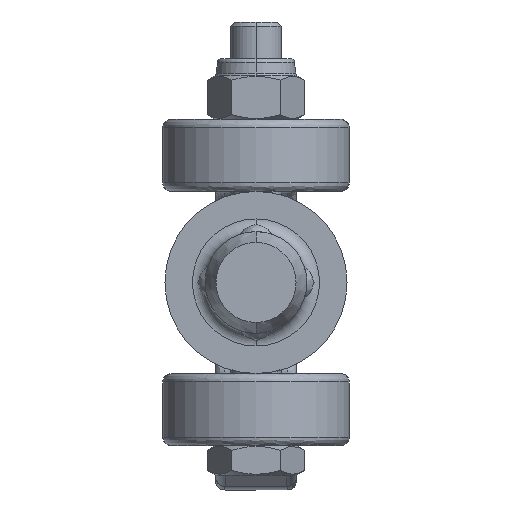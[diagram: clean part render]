
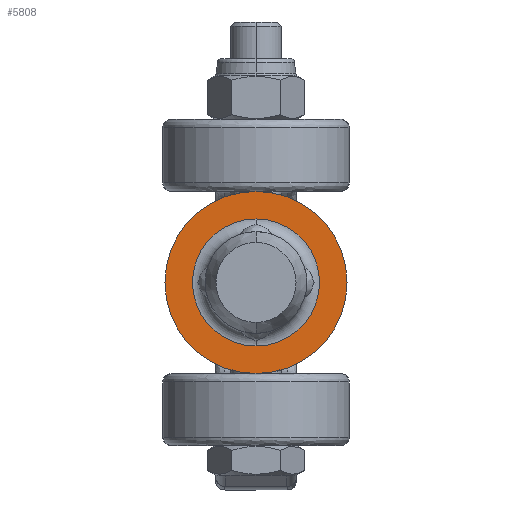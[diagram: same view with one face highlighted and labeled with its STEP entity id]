
A CAD part, front view. The second image highlights one B-rep face of the part: STEP entity #5808.
In plain terms, the highlighted planar face has unit normal (0, -1, 0) as drawn and (-1, 0, 0) by its records, which use the part's own axes.
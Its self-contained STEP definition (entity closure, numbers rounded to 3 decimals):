
#16 = DIRECTION ( 'NONE',  ( 0., 0., 1. ) ) ;
#106 = EDGE_CURVE ( 'NONE', #703, #6920, #4371, .T. ) ;
#195 = ORIENTED_EDGE ( 'NONE', *, *, #106, .F. ) ;
#471 = AXIS2_PLACEMENT_3D ( 'NONE', #2761, #5112, #565 ) ;
#565 = DIRECTION ( 'NONE',  ( 0., 0., 1. ) ) ;
#701 = DIRECTION ( 'NONE',  ( -1., 0., 0. ) ) ;
#703 = VERTEX_POINT ( 'NONE', #9762 ) ;
#1068 = CIRCLE ( 'NONE', #5849, 7.5 ) ;
#1863 = CARTESIAN_POINT ( 'NONE',  ( 0., 0., 7.5 ) ) ;
#1907 = AXIS2_PLACEMENT_3D ( 'NONE', #5476, #8373, #6130 ) ;
#2170 = EDGE_CURVE ( 'NONE', #3057, #4144, #1068, .T. ) ;
#2193 = AXIS2_PLACEMENT_3D ( 'NONE', #8140, #3486, #7408 ) ;
#2761 = CARTESIAN_POINT ( 'NONE',  ( 0., 0., 0. ) ) ;
#3057 = VERTEX_POINT ( 'NONE', #3118 ) ;
#3118 = CARTESIAN_POINT ( 'NONE',  ( 0., 0., -7.5 ) ) ;
#3151 = ORIENTED_EDGE ( 'NONE', *, *, #9655, .F. ) ;
#3486 = DIRECTION ( 'NONE',  ( -1., 0., 0. ) ) ;
#3598 = EDGE_LOOP ( 'NONE', ( #3151, #195 ) ) ;
#3743 = ORIENTED_EDGE ( 'NONE', *, *, #2170, .F. ) ;
#4144 = VERTEX_POINT ( 'NONE', #1863 ) ;
#4371 = CIRCLE ( 'NONE', #6136, 10.75 ) ;
#4410 = CARTESIAN_POINT ( 'NONE',  ( 0., 0., 0. ) ) ;
#4508 = EDGE_CURVE ( 'NONE', #4144, #3057, #6652, .T. ) ;
#5112 = DIRECTION ( 'NONE',  ( 1., 0., 0. ) ) ;
#5476 = CARTESIAN_POINT ( 'NONE',  ( 0., 6.5, 0. ) ) ;
#5808 = ADVANCED_FACE ( 'NONE', ( #9323, #7647 ), #9235, .F. ) ;
#5849 = AXIS2_PLACEMENT_3D ( 'NONE', #8298, #701, #8251 ) ;
#6130 = DIRECTION ( 'NONE',  ( 0., 0., -1. ) ) ;
#6136 = AXIS2_PLACEMENT_3D ( 'NONE', #4410, #6739, #16 ) ;
#6242 = CARTESIAN_POINT ( 'NONE',  ( 0., 0., 10.75 ) ) ;
#6283 = EDGE_LOOP ( 'NONE', ( #7764, #3743 ) ) ;
#6652 = CIRCLE ( 'NONE', #2193, 7.5 ) ;
#6739 = DIRECTION ( 'NONE',  ( 1., 0., 0. ) ) ;
#6920 = VERTEX_POINT ( 'NONE', #6242 ) ;
#7162 = CIRCLE ( 'NONE', #471, 10.75 ) ;
#7408 = DIRECTION ( 'NONE',  ( 0., 0., 1. ) ) ;
#7647 = FACE_BOUND ( 'NONE', #6283, .T. ) ;
#7764 = ORIENTED_EDGE ( 'NONE', *, *, #4508, .F. ) ;
#8140 = CARTESIAN_POINT ( 'NONE',  ( 0., 0., 0. ) ) ;
#8251 = DIRECTION ( 'NONE',  ( 0., 0., 1. ) ) ;
#8298 = CARTESIAN_POINT ( 'NONE',  ( 0., 0., 0. ) ) ;
#8373 = DIRECTION ( 'NONE',  ( 1., 0., 0. ) ) ;
#9235 = PLANE ( 'NONE',  #1907 ) ;
#9323 = FACE_OUTER_BOUND ( 'NONE', #3598, .T. ) ;
#9655 = EDGE_CURVE ( 'NONE', #6920, #703, #7162, .T. ) ;
#9762 = CARTESIAN_POINT ( 'NONE',  ( 0., 0., -10.75 ) ) ;
